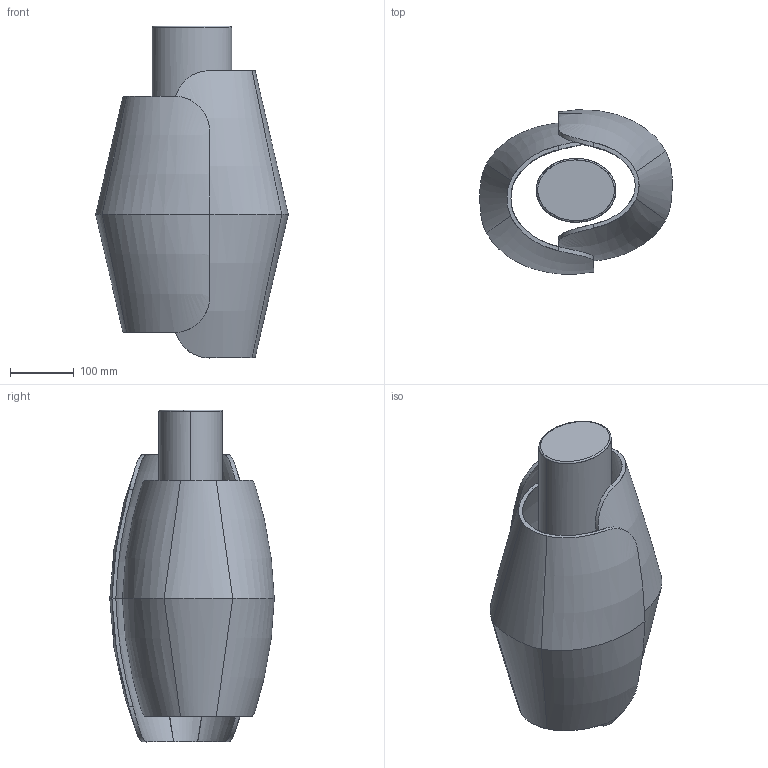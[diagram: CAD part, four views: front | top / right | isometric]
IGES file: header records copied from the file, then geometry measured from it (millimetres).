
Start section: SolidWorks IGES file using analytic representation for surfaces
Global section: file name: C:\Users\liamb\Dropbox\Rakumba Marketing - Design\LIGHTWEIGHT CAD MODEL LIBRARY\Exported File Formats FOR CLIENT USE - Public\Volute\Volute - Table Lamp\Volute - Table Lamp.IGS; native system: SolidWorks 2017; preprocessor: SolidWorks 2017; author: liamb; date: 230331.122625; units: millimetre
Bounding box: 301.68 x 257.7 x 520 mm (x, y, z)
Surface area: 796933.7 mm2 (no closed solid volume)
Topology: 0 solids, 0 shells, 61 faces, 1944 edges, 1943 vertices
Faces by surface type: bspline 53, revolution 8
